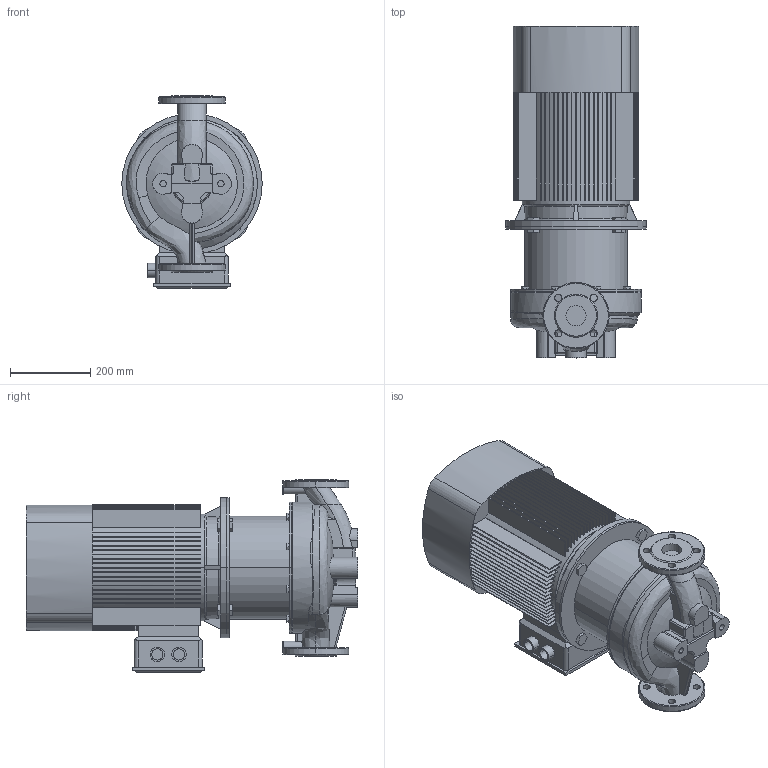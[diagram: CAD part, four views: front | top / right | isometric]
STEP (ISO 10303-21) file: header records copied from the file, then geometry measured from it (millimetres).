
FILE_DESCRIPTION (( 'STEP AP203' ), '1' );
FILE_NAME ('TD50-80G_2.STEP', '2022-04-28T11:05:55', ( '' ), ( '' ), 'SwSTEP 2.0', 'SolidWorks 2019', '' );
FILE_SCHEMA (( 'CONFIG_CONTROL_DESIGN' ));
Length unit declared in the file: millimetre
Products named in the file (4): Fon_50_TD50-80G_2; Pr_ch 50 - 59_80_TD50-80G_2; ED_B5_YE2-160M1-2 (11); TD50-80G_2
Assembly tree (3 placements, depth 2):
  TD50-80G_2
    Pr_ch 50 - 59_80_TD50-80G_2
    Fon_50_TD50-80G_2
    ED_B5_YE2-160M1-2 (11)
Bounding box: 350 x 827 x 481 mm (x, y, z)
Volume: 49006343.6 mm3; surface area: 2714629.5 mm2
Topology: 5 solids, 5 shells, 715 faces, 1973 edges, 1298 vertices
Faces by surface type: plane 497, cylinder 142, torus 31, bspline 26, cone 17, sphere 2
Entity records: 29731 total; most frequent: CARTESIAN_POINT 10864, ORIENTED_EDGE 3942, DIRECTION 3831, EDGE_CURVE 1971, AXIS2_PLACEMENT_3D 1334, VERTEX_POINT 1298, LINE 1163, VECTOR 1163
